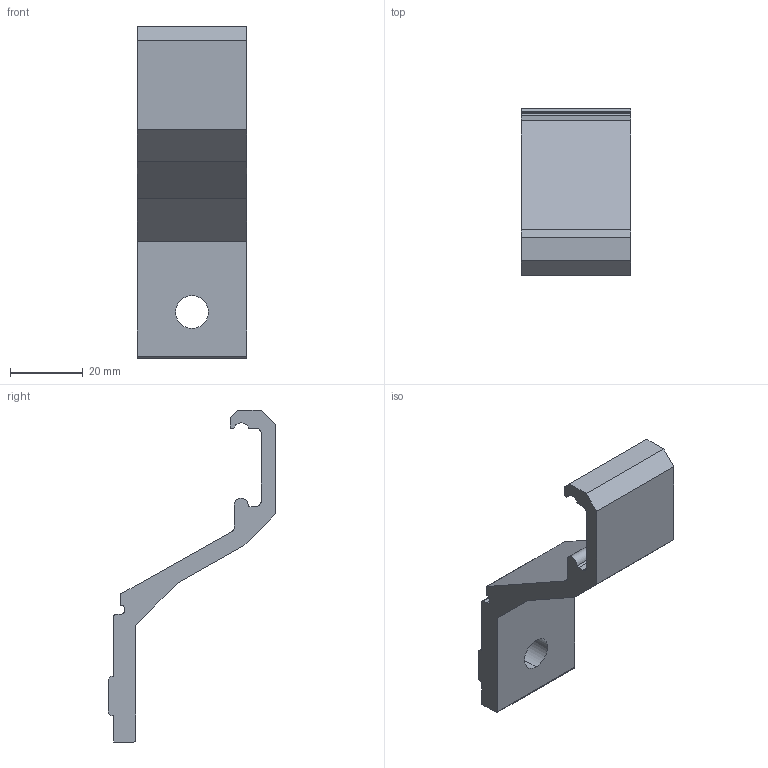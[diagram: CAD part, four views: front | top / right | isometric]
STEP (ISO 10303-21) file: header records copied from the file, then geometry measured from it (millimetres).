
FILE_DESCRIPTION (( 'STEP AP214' ), '1' );
FILE_NAME ('FGRB 40X54.step', '2017-04-05T07:38:58', ( '' ), ( '' ), 'SwSTEP 2.0', 'SolidWorks 2015', '' );
FILE_SCHEMA (( 'AUTOMOTIVE_DESIGN' ));
Length unit declared in the file: millimetre
Products named in the file (1): FGRB 40X54
Bounding box: 30 x 46 x 91.1 mm (x, y, z)
Volume: 19487.5 mm3; surface area: 9151 mm2
Topology: 1 solids, 1 shells, 41 faces, 117 edges, 78 vertices
Faces by surface type: plane 27, cylinder 14
Entity records: 1377 total; most frequent: CARTESIAN_POINT 237, ORIENTED_EDGE 234, DIRECTION 229, EDGE_CURVE 117, LINE 89, VECTOR 89, VERTEX_POINT 78, AXIS2_PLACEMENT_3D 70
